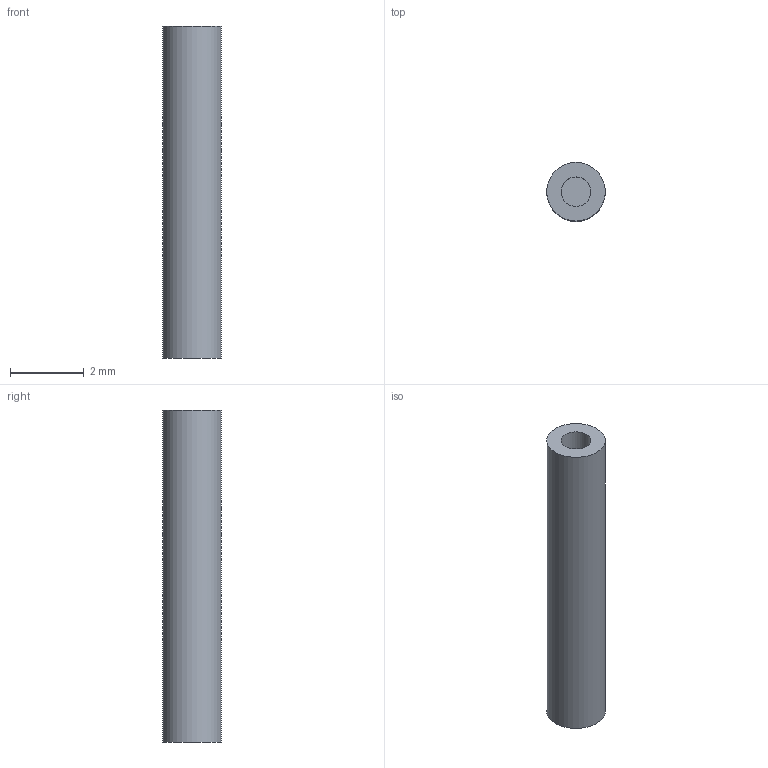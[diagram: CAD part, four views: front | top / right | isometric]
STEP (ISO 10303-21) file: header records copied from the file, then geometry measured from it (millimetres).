
FILE_DESCRIPTION(('Open CASCADE Model'),'2;1');
FILE_NAME('Open CASCADE Shape Model','2026-11-10T21:02:46',('Author'),( 'Open CASCADE'),'Open CASCADE STEP processor 7.9','Open CASCADE 7.9' ,'Unknown');
FILE_SCHEMA(('AUTOMOTIVE_DESIGN { 1 0 10303 214 1 1 1 1 }'));
Length unit declared in the file: millimetre
Products named in the file (1): Open CASCADE STEP translator 7.9 9
Bounding box: 1.59 x 1.59 x 9 mm (x, y, z)
Volume: 16.8 mm3; surface area: 53.9 mm2
Topology: 1 solids, 1 shells, 5 faces, 6 edges, 4 vertices
Faces by surface type: plane 3, cylinder 2
Full cylindrical faces by diameter (mm): 0.8 x1, 1.588 x1
Entity records: 192 total; most frequent: DIRECTION 34, CARTESIAN_POINT 28, ORIENTED_EDGE 12, PCURVE 12, DEFINITIONAL_REPRESENTATION 12, AXIS2_PLACEMENT_3D 10, LINE 10, VECTOR 10
